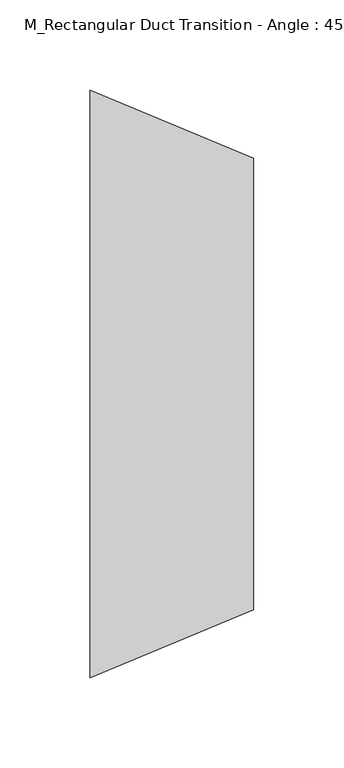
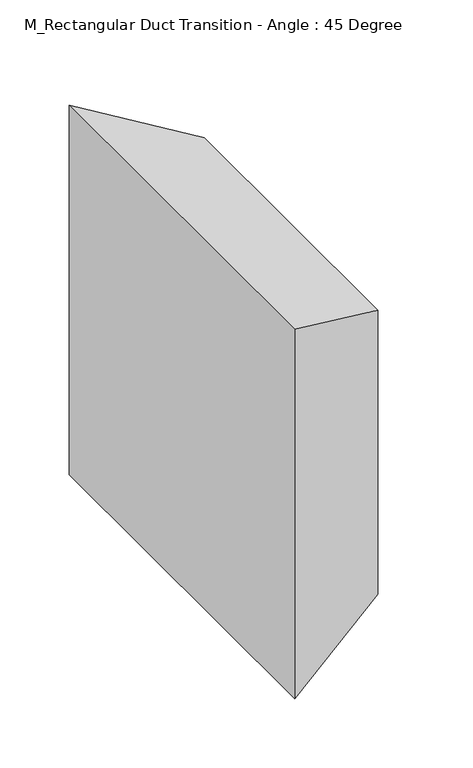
"""IFC4 building model written with IfcOpenShell, lengths in millimetres: duct fitting geometry, M_Rectangular Duct Transition - Angle : 45 Degree."""

from ifc_helpers import new_model, si_unit, origin, place, context, project, spatial, faceted_brep, source, transform, mapped, element, save


def m_rectangular_duct_transition_angle_45_degree_30f54a79(model_context):
    return source(origin(), model_context, "Body", "Brep", [
        faceted_brep([(90.5330086, -125.0, 125.0), (90.5330086, -125.0, -125.0), (90.5330086, 125.0, -125.0), (90.5330086, 125.0, 125.0), (0.0, -162.5, 162.5), (0.0, 162.5, 162.5), (0.0, 162.5, -162.5), (0.0, -162.5, -162.5)], [[[0, 1, 2, 3]], [[4, 5, 6, 7]], [[4, 7, 1, 0]], [[7, 6, 2, 1]], [[6, 5, 3, 2]], [[5, 4, 0, 3]]]),
        faceted_brep([(90.5330086, -125.0, 125.0), (90.5330086, -125.0, -125.0), (90.5330086, 125.0, -125.0), (90.5330086, 125.0, 125.0), (0.0, -162.5, 162.5), (0.0, 162.5, 162.5), (0.0, 162.5, -162.5), (0.0, -162.5, -162.5)], [[[0, 1, 2, 3]], [[4, 5, 6, 7]], [[4, 7, 1, 0]], [[7, 6, 2, 1]], [[6, 5, 3, 2]], [[5, 4, 0, 3]]]),
        faceted_brep([(90.5330086, -125.0, 125.0), (90.5330086, -125.0, -125.0), (90.5330086, 125.0, -125.0), (90.5330086, 125.0, 125.0), (0.0, -162.5, 162.5), (0.0, 162.5, 162.5), (0.0, 162.5, -162.5), (0.0, -162.5, -162.5)], [[[0, 1, 2, 3]], [[4, 5, 6, 7]], [[4, 7, 1, 0]], [[7, 6, 2, 1]], [[6, 5, 3, 2]], [[5, 4, 0, 3]]]),
    ])


if __name__ == "__main__":
    model = new_model("IFC4")
    model_context = context("Model", 3, world=origin())
    ifc_project = project(units=[si_unit("LENGTHUNIT", "METRE", prefix="MILLI")], contexts=[model_context])
    site = spatial("IfcSite", under=ifc_project)
    building = spatial("IfcBuilding", under=site)
    placement = place(None, origin())
    m_rectangular_duct_transition_angle_45_degree_shape = m_rectangular_duct_transition_angle_45_degree_30f54a79(model_context)
    element("IfcDuctFitting", 1, ObjectType="M_Rectangular Duct Transition - Angle : 45 Degree", at=placement, inside=building, context=model_context, shape_type="MappedRepresentation", body=[
        mapped(m_rectangular_duct_transition_angle_45_degree_shape, transform((0.0, 0.0, 0.0), x_axis=(1.0, 0.0, 0.0), y_axis=(0.0, 1.0, 0.0), z_axis=(0.0, 0.0, 1.0))),
    ])
    save(model, "model.ifc")
